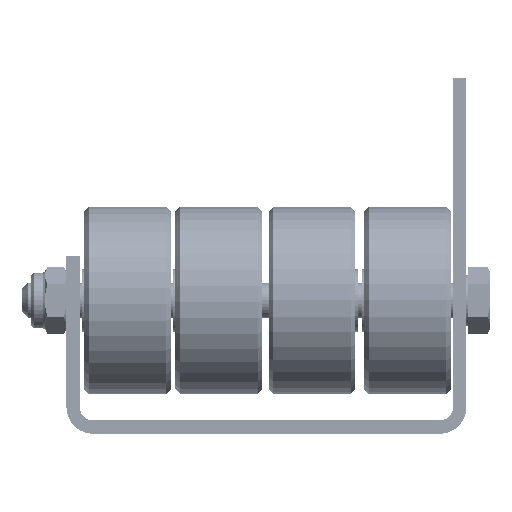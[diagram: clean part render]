
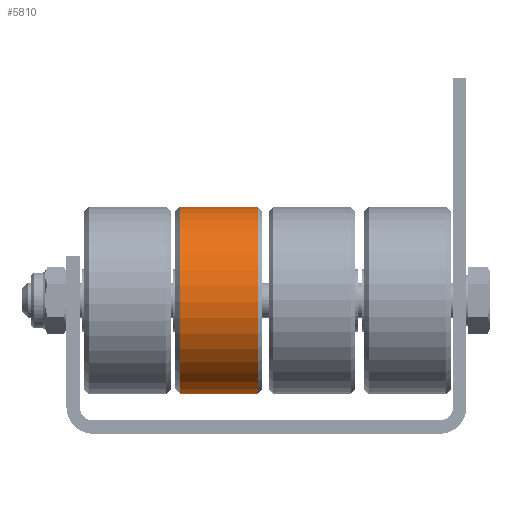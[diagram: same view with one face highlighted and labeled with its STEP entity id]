
A CAD part, front view. The second image highlights one B-rep face of the part: STEP entity #5810.
In plain terms, the highlighted cylindrical face has radius 21 mm (diameter 42 mm), a full revolution.
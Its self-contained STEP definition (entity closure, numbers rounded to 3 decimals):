
#1143=CYLINDRICAL_SURFACE('',#6851,21.);
#1534=CIRCLE('',#6852,21.);
#1535=CIRCLE('',#6853,21.);
#2505=ORIENTED_EDGE('',*,*,#3184,.T.);
#2506=ORIENTED_EDGE('',*,*,#3185,.T.);
#3184=EDGE_CURVE('',#3698,#3698,#1534,.F.);
#3185=EDGE_CURVE('',#3699,#3699,#1535,.T.);
#3698=VERTEX_POINT('',#10363);
#3699=VERTEX_POINT('',#10365);
#4691=EDGE_LOOP('',(#2505));
#4692=EDGE_LOOP('',(#2506));
#5457=FACE_BOUND('',#4691,.T.);
#5458=FACE_BOUND('',#4692,.T.);
#5810=ADVANCED_FACE('',(#5457,#5458),#1143,.T.);
#6851=AXIS2_PLACEMENT_3D('',#10361,#8456,#8457);
#6852=AXIS2_PLACEMENT_3D('',#10362,#8458,#8459);
#6853=AXIS2_PLACEMENT_3D('',#10364,#8460,#8461);
#8456=DIRECTION('',(0.,1.,0.));
#8457=DIRECTION('',(0.,0.,1.));
#8458=DIRECTION('',(0.,1.,0.));
#8459=DIRECTION('',(0.,0.,1.));
#8460=DIRECTION('',(0.,1.,0.));
#8461=DIRECTION('',(0.,0.,1.));
#10361=CARTESIAN_POINT('',(0.,-9.75,0.));
#10362=CARTESIAN_POINT('',(0.,8.75,0.));
#10363=CARTESIAN_POINT('',(0.,8.75,21.));
#10364=CARTESIAN_POINT('',(0.,-8.75,0.));
#10365=CARTESIAN_POINT('',(0.,-8.75,21.));
